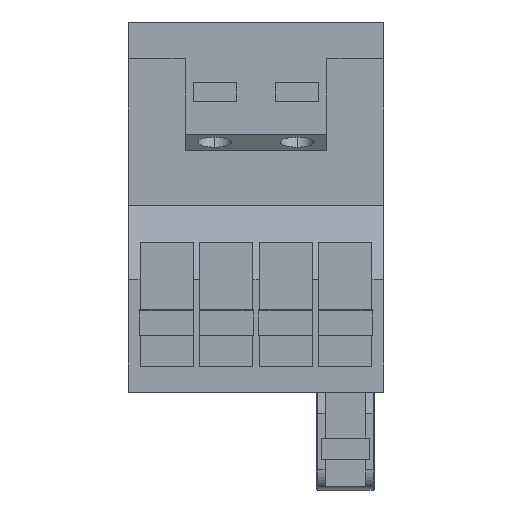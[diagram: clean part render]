
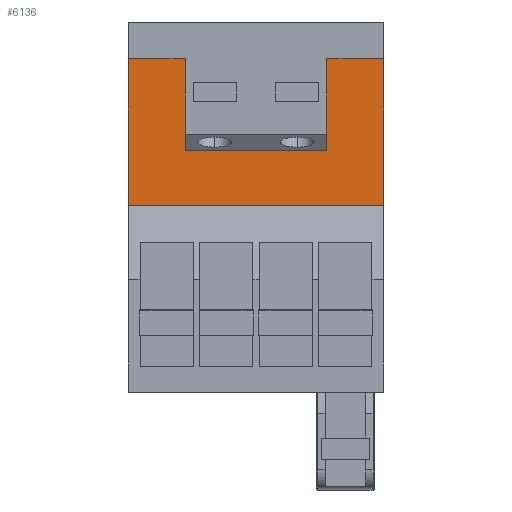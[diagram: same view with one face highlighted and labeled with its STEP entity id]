
A CAD part, top view. The second image highlights one B-rep face of the part: STEP entity #6136.
In plain terms, the highlighted planar face has unit normal (0, 0, 1).
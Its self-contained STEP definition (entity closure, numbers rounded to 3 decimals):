
#321 = LINE ( 'NONE', #4719, #2457 ) ;
#328 = LINE ( 'NONE', #5835, #747 ) ;
#354 = CARTESIAN_POINT ( 'NONE',  ( 38.604, 33.999, 20. ) ) ;
#373 = ORIENTED_EDGE ( 'NONE', *, *, #783, .T. ) ;
#425 = LINE ( 'NONE', #4482, #2906 ) ;
#686 = VERTEX_POINT ( 'NONE', #4896 ) ;
#708 = VECTOR ( 'NONE', #2006, 1000. ) ;
#747 = VECTOR ( 'NONE', #972, 1000. ) ;
#783 = EDGE_CURVE ( 'NONE', #3591, #2831, #3332, .T. ) ;
#897 = EDGE_CURVE ( 'NONE', #5736, #4411, #6012, .T. ) ;
#972 = DIRECTION ( 'NONE',  ( 1., 0., 0. ) ) ;
#984 = ORIENTED_EDGE ( 'NONE', *, *, #4454, .T. ) ;
#991 = CARTESIAN_POINT ( 'NONE',  ( 63.604, 33.999, 20. ) ) ;
#1529 = VECTOR ( 'NONE', #4636, 1000. ) ;
#1617 = AXIS2_PLACEMENT_3D ( 'NONE', #5080, #5265, #5283 ) ;
#1793 = EDGE_LOOP ( 'NONE', ( #984, #7247, #4679, #3336, #6671, #5525, #373, #6439 ) ) ;
#2006 = DIRECTION ( 'NONE',  ( 0., 1., 0. ) ) ;
#2310 = VERTEX_POINT ( 'NONE', #3069 ) ;
#2403 = EDGE_CURVE ( 'NONE', #2831, #686, #321, .T. ) ;
#2457 = VECTOR ( 'NONE', #5100, 1000. ) ;
#2678 = EDGE_CURVE ( 'NONE', #6741, #2310, #5644, .T. ) ;
#2743 = CARTESIAN_POINT ( 'NONE',  ( 38.604, 17.799, 20. ) ) ;
#2831 = VERTEX_POINT ( 'NONE', #3810 ) ;
#2906 = VECTOR ( 'NONE', #4599, 1000. ) ;
#3046 = EDGE_CURVE ( 'NONE', #4411, #3591, #6786, .T. ) ;
#3069 = CARTESIAN_POINT ( 'NONE',  ( 28.604, 8.199, 20. ) ) ;
#3123 = CARTESIAN_POINT ( 'NONE',  ( 73.604, 33.999, 20. ) ) ;
#3332 = LINE ( 'NONE', #6231, #7516 ) ;
#3336 = ORIENTED_EDGE ( 'NONE', *, *, #5290, .T. ) ;
#3552 = FACE_OUTER_BOUND ( 'NONE', #1793, .T. ) ;
#3591 = VERTEX_POINT ( 'NONE', #991 ) ;
#3810 = CARTESIAN_POINT ( 'NONE',  ( 63.604, 17.799, 20. ) ) ;
#4095 = CARTESIAN_POINT ( 'NONE',  ( 73.604, 8.199, 20. ) ) ;
#4320 = VECTOR ( 'NONE', #7375, 1000. ) ;
#4340 = DIRECTION ( 'NONE',  ( -1., 0., 0. ) ) ;
#4411 = VERTEX_POINT ( 'NONE', #3123 ) ;
#4454 = EDGE_CURVE ( 'NONE', #686, #7968, #6696, .T. ) ;
#4482 = CARTESIAN_POINT ( 'NONE',  ( 73.604, 33.999, 20. ) ) ;
#4578 = CARTESIAN_POINT ( 'NONE',  ( 73.604, 33.999, 20. ) ) ;
#4599 = DIRECTION ( 'NONE',  ( -1., 0., 0. ) ) ;
#4613 = CARTESIAN_POINT ( 'NONE',  ( 73.604, 17.799, 20. ) ) ;
#4636 = DIRECTION ( 'NONE',  ( 0., 1., 0. ) ) ;
#4679 = ORIENTED_EDGE ( 'NONE', *, *, #2678, .T. ) ;
#4719 = CARTESIAN_POINT ( 'NONE',  ( 73.604, 17.799, 20. ) ) ;
#4896 = CARTESIAN_POINT ( 'NONE',  ( 38.604, 17.799, 20. ) ) ;
#5080 = CARTESIAN_POINT ( 'NONE',  ( 73.604, 17.799, 20. ) ) ;
#5100 = DIRECTION ( 'NONE',  ( -1., 0., 0. ) ) ;
#5232 = PLANE ( 'NONE',  #1617 ) ;
#5265 = DIRECTION ( 'NONE',  ( 0., 0., 1. ) ) ;
#5283 = DIRECTION ( 'NONE',  ( 0., -1., 0. ) ) ;
#5290 = EDGE_CURVE ( 'NONE', #2310, #5736, #328, .T. ) ;
#5525 = ORIENTED_EDGE ( 'NONE', *, *, #3046, .T. ) ;
#5644 = LINE ( 'NONE', #7411, #4320 ) ;
#5736 = VERTEX_POINT ( 'NONE', #4095 ) ;
#5835 = CARTESIAN_POINT ( 'NONE',  ( 73.604, 8.199, 20. ) ) ;
#5850 = VECTOR ( 'NONE', #4340, 1000. ) ;
#6012 = LINE ( 'NONE', #4613, #1529 ) ;
#6136 = ADVANCED_FACE ( 'NONE', ( #3552 ), #5232, .T. ) ;
#6231 = CARTESIAN_POINT ( 'NONE',  ( 63.604, 17.799, 20. ) ) ;
#6439 = ORIENTED_EDGE ( 'NONE', *, *, #2403, .T. ) ;
#6671 = ORIENTED_EDGE ( 'NONE', *, *, #897, .T. ) ;
#6696 = LINE ( 'NONE', #2743, #708 ) ;
#6741 = VERTEX_POINT ( 'NONE', #7535 ) ;
#6786 = LINE ( 'NONE', #4578, #5850 ) ;
#6832 = DIRECTION ( 'NONE',  ( 0., -1., 0. ) ) ;
#7174 = EDGE_CURVE ( 'NONE', #7968, #6741, #425, .T. ) ;
#7247 = ORIENTED_EDGE ( 'NONE', *, *, #7174, .T. ) ;
#7375 = DIRECTION ( 'NONE',  ( 0., -1., 0. ) ) ;
#7411 = CARTESIAN_POINT ( 'NONE',  ( 28.604, 20.703, 20. ) ) ;
#7516 = VECTOR ( 'NONE', #6832, 1000. ) ;
#7535 = CARTESIAN_POINT ( 'NONE',  ( 28.604, 33.999, 20. ) ) ;
#7968 = VERTEX_POINT ( 'NONE', #354 ) ;
